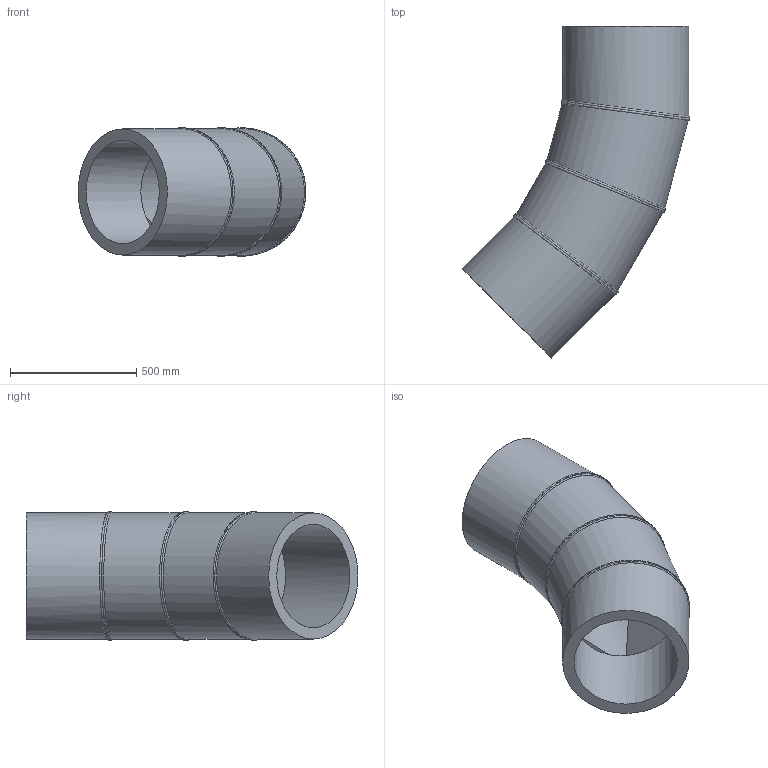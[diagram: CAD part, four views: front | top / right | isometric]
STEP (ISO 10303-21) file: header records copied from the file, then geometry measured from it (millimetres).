
FILE_DESCRIPTION(/* description */ ('Unknown'),/* implementation_level */ '2;1');
FILE_NAME(/* name */ 'Curva 45° a settore DE500 SDR11',/* time_stamp */ '2022-07-26T09:30:55+02:00',/* author */ ('Unknown'),/* organization */ ('Unknown'),/* preprocessor_version */ 'ST-DEVELOPER v18.102',/* originating_system */ 'Solid Edge',/* authorisation */ 'Unknown');
FILE_SCHEMA (('AUTOMOTIVE_DESIGN {1 0 10303 214 3 1 1}'));
Length unit declared in the file: millimetre
Products named in the file (3): Curva 45° a settore DE500 SDR11; Tubo x Gomito 45° DE500 SDR11 - 1; Tubo x Gomito 45° DE500 SDR11 - 2
Assembly tree (4 placements, depth 2):
  Curva 45° a settore DE500 SDR11
    Tubo x Gomito 45° DE500 SDR11 - 1  x2
    Tubo x Gomito 45° DE500 SDR11 - 2  x2
Bounding box: 902.03 x 1314.51 x 507.98 mm (x, y, z)
Volume: 83721208.9 mm3; surface area: 4243999.9 mm2
Topology: 4 solids, 4 shells, 34 faces, 74 edges, 48 vertices
Faces by surface type: cylinder 20, plane 8, bspline 6
Full cylindrical faces by diameter (mm): 409.2 x4, 500 x4
Entity records: 2475 total; most frequent: CARTESIAN_POINT 2073, DIRECTION 72, ORIENTED_EDGE 52, AXIS2_PLACEMENT_3D 36, EDGE_LOOP 28, FACE_BOUND 28, EDGE_CURVE 26, VERTEX_POINT 20
